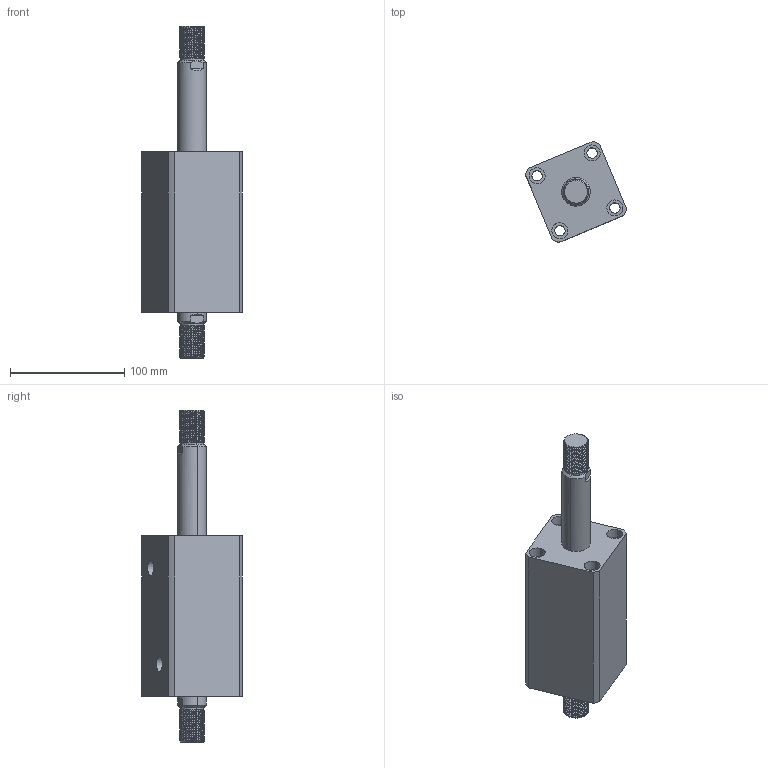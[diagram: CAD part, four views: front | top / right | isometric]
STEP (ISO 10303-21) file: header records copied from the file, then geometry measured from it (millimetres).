
FILE_DESCRIPTION (( 'STEP AP214' ), '1' );
FILE_NAME ('chtb-sw40x70w_asm.STEP', '2018-06-08T10:31:26', ( 'Windows' ), ( 'Microsoft' ), 'SwSTEP 2.0', 'SolidWorks 2015', '' );
FILE_SCHEMA (( 'AUTOMOTIVE_DESIGN' ));
Length unit declared in the file: millimetre
Products named in the file (4): CHTB-SW40X70NHSG; CHTB-SW40X70NBT; CHTB-SD40QG; chtb-sw40x70w_asm
Assembly tree (3 placements, depth 2):
  chtb-sw40x70w_asm
    CHTB-SD40QG
    CHTB-SW40X70NBT
    CHTB-SW40X70NHSG
Bounding box: 88.11 x 88.11 x 290 mm (x, y, z)
Volume: 645329.5 mm3; surface area: 119280.3 mm2
Topology: 3 solids, 3 shells, 254 faces, 680 edges, 452 vertices
Faces by surface type: cylinder 160, plane 46, bspline 18, cone 18, torus 12
Entity records: 17389 total; most frequent: CARTESIAN_POINT 11402, ORIENTED_EDGE 1348, DIRECTION 1094, EDGE_CURVE 674, VERTEX_POINT 452, AXIS2_PLACEMENT_3D 443, EDGE_LOOP 296, FACE_OUTER_BOUND 254
